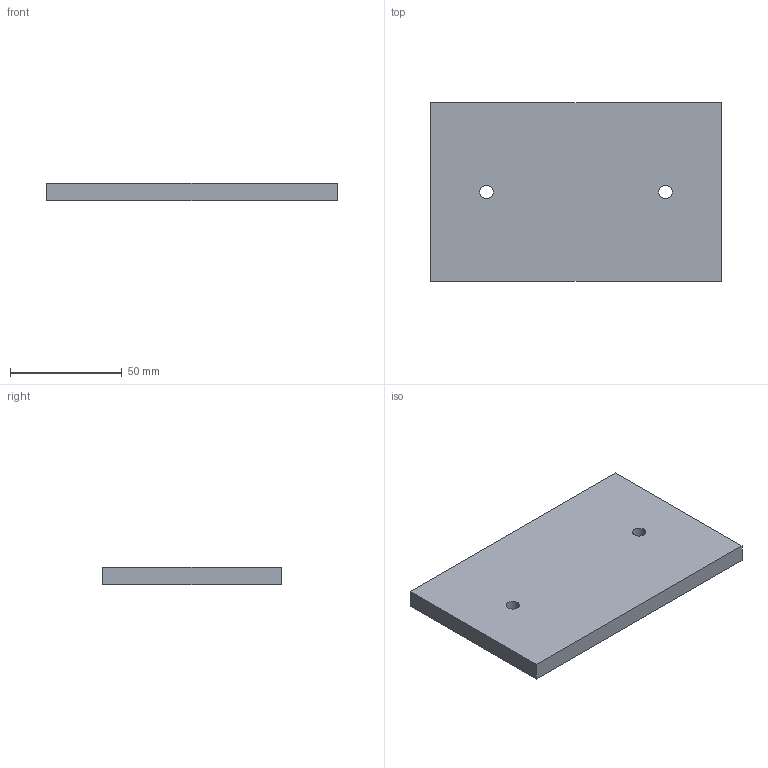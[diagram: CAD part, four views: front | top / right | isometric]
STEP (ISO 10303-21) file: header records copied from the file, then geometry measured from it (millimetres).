
FILE_DESCRIPTION(('Open CASCADE Model'),'2;1');
FILE_NAME('Open CASCADE Shape Model','2026-10-28T05:16:20',('Author'),( 'Open CASCADE'),'Open CASCADE STEP processor 7.8','Open CASCADE 7.8' ,'Unknown');
FILE_SCHEMA(('AUTOMOTIVE_DESIGN { 1 0 10303 214 1 1 1 1 }'));
Length unit declared in the file: millimetre
Products named in the file (1): Open CASCADE STEP translator 7.8 27
Bounding box: 130 x 80 x 8 mm (x, y, z)
Volume: 82743.1 mm3; surface area: 24348.9 mm2
Topology: 1 solids, 1 shells, 8 faces, 18 edges, 12 vertices
Faces by surface type: plane 6, cylinder 2
Full cylindrical faces by diameter (mm): 6.03 x2
Entity records: 478 total; most frequent: DIRECTION 76, CARTESIAN_POINT 75, LINE 46, VECTOR 46, ORIENTED_EDGE 36, PCURVE 36, DEFINITIONAL_REPRESENTATION 36, EDGE_CURVE 18
